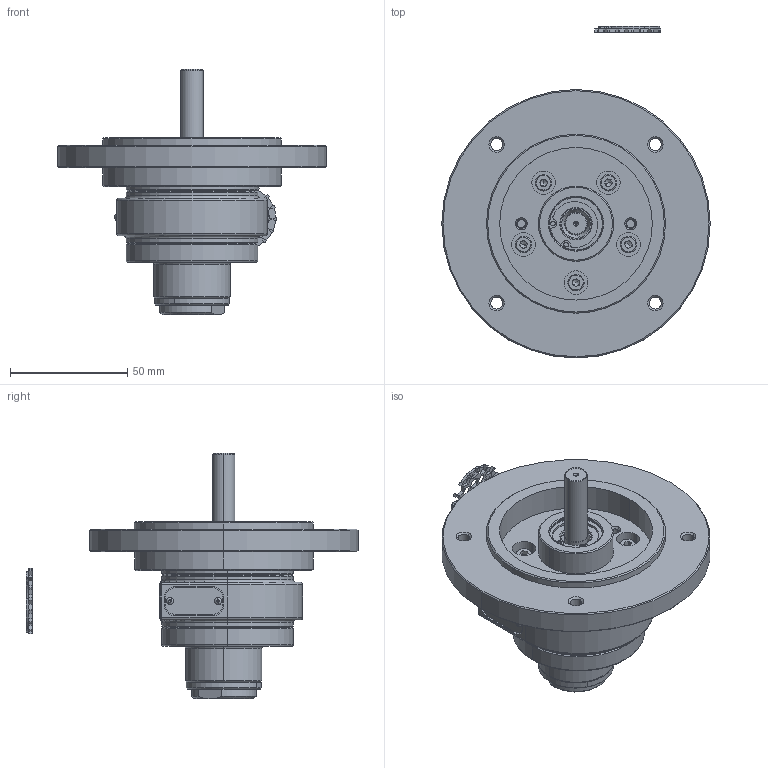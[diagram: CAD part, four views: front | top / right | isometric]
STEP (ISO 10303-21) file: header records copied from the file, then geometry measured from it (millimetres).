
FILE_DESCRIPTION (( 'STEP AP214' ), '1' );
FILE_NAME ('1VMN-Nema (Alu. End Plates)_23-04-26.STEP', '2026-04-23T09:41:56', ( '' ), ( '' ), 'SwSTEP 2.0', 'SolidWorks 2017', '' );
FILE_SCHEMA (( 'AUTOMOTIVE_DESIGN' ));
Length unit declared in the file: millimetre
Products named in the file (2): 1VMN-Nema (Alu. End Plates)_23-04-26
Bounding box: 114.3 x 141.38 x 104.35 mm (x, y, z)
Volume: 138319.4 mm3; surface area: 70793.1 mm2
Topology: 31 solids, 31 shells, 997 faces, 2431 edges, 1515 vertices
Faces by surface type: plane 411, cylinder 337, cone 183, torus 60, bspline 6
Entity records: 43288 total; most frequent: CARTESIAN_POINT 6902, DIRECTION 5537, ORIENTED_EDGE 5000, EDGE_CURVE 2500, AXIS2_PLACEMENT_3D 2114, VERTEX_POINT 1575, VECTOR 1309, LINE 1309
